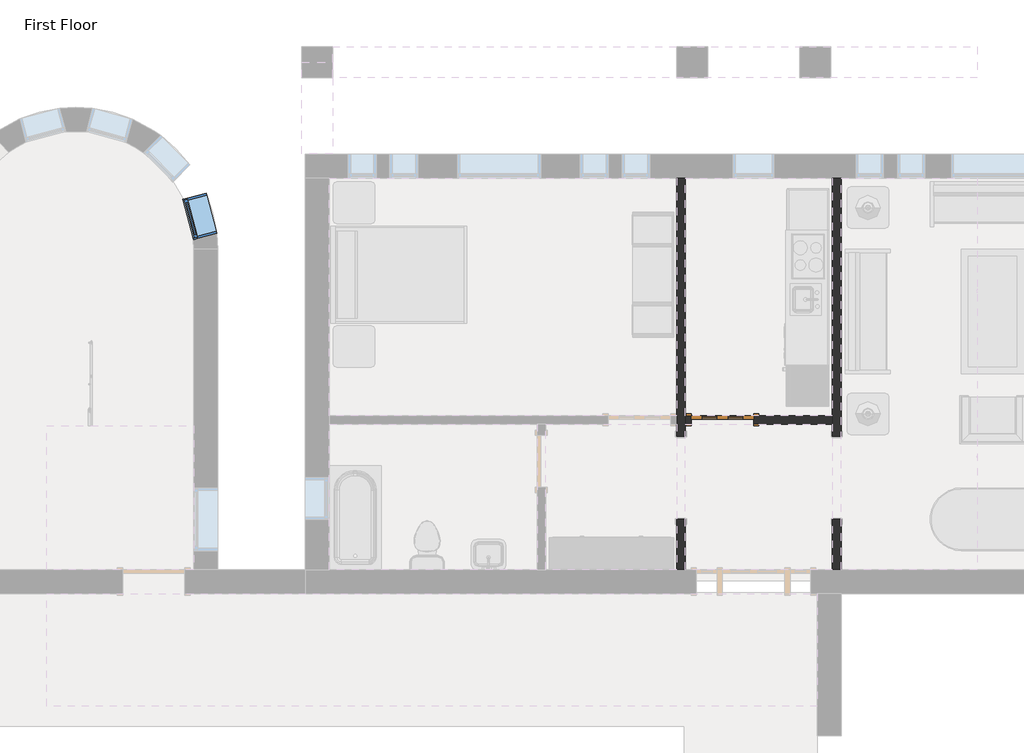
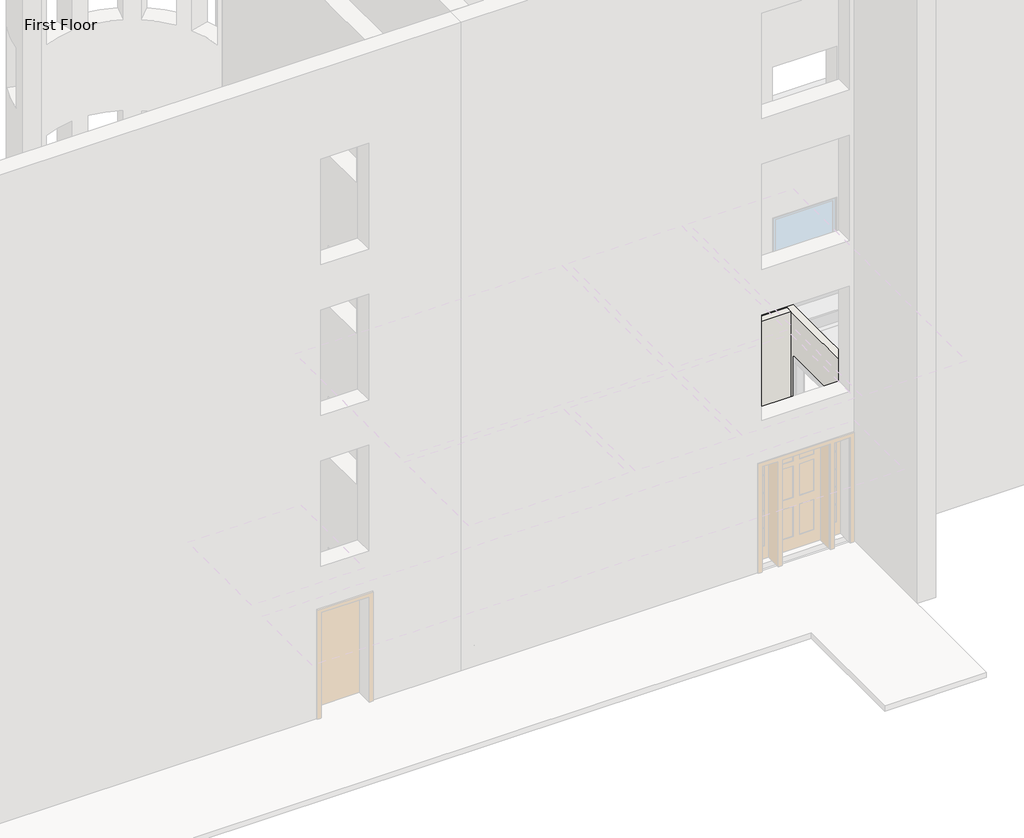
# One storey, part 16 of 24: 3 walls, 1 door, 1 window.
"""IFC4 building model written with IfcOpenShell, lengths in millimetres."""

from ifc_helpers import new_model, si_unit, frame, origin, place, context, project, spatial, polyline, outline, extrude, faceted_brep, transform, mapped, element, save
from components import door_829da954, window_60baf983

model = new_model("IFC4")

# Units and contexts
model_context = context("Model", 3, world=origin())
ifc_project = project(units=[si_unit("LENGTHUNIT", "METRE", prefix="MILLI")], contexts=[model_context])

# Site, building, storey
site = spatial("IfcSite", under=ifc_project)
building = spatial("IfcBuilding", under=site)
storey = spatial("IfcBuildingStorey", under=building, Name="First Floor", Elevation=0.0)

# Door
placement = place(None, origin())
door_shape = door_829da954(model_context)
element("IfcDoor", 1, ObjectType="Single-Decorative 2 : 36\" x 84\"", at=placement, inside=storey, context=model_context, shape_type="MappedRepresentation", body=[
    mapped(door_shape, transform((-5449.8589563, 6723.5441867, 0.0), x_axis=(-1.0, 0.0, 0.0), y_axis=(0.0, -1.0, 0.0), z_axis=(0.0, 0.0, 1.0))),
])

# Walls
element("IfcWall", 2, ObjectType="Interior - 5\" Partition (2-hr)", at=placement, inside=storey, context=model_context, shape_type="Brep", body=[
    faceted_brep([(-3836.9589563, 10270.0191867, 0.0), (-3836.9589563, 6787.0441867, 0.0), (-3836.9589563, 6660.0441867, 0.0), (-3836.9589563, 6483.8316867, 0.0), (-3836.9589563, 6483.8316867, 2133.6), (-3836.9589563, 5264.6316867, 2133.6), (-3836.9589563, 5264.6316867, 0.0), (-3836.9589563, 4526.4441867, 0.0), (-3836.9589563, 4526.4441867, 3048.0), (-3836.9589563, 6660.0441867, 3048.0), (-3836.9589563, 6787.0441867, 3048.0), (-3836.9589563, 10270.0191867, 3048.0), (-3709.9589563, 6483.8316867, 2133.6), (-3709.9589563, 6483.8316867, 0.0), (-3709.9589563, 10270.0191867, 0.0), (-3709.9589563, 10270.0191867, 3048.0), (-3709.9589563, 4526.4441867, 3048.0), (-3709.9589563, 4526.4441867, 0.0), (-3709.9589563, 5264.6316867, 0.0), (-3709.9589563, 5264.6316867, 2133.6)], [[[0, 1, 2, 3, 4, 5, 6, 7, 8, 9, 10, 11]], [[12, 13, 14, 15, 16, 17, 18, 19]], [[14, 13, 3, 2, 1, 0]], [[18, 17, 7, 6]], [[11, 10, 9, 8, 16, 15]], [[0, 11, 15, 14]], [[8, 7, 17, 16]], [[6, 5, 19, 18]], [[4, 3, 13, 12]], [[5, 4, 12, 19]]]),
])
element("IfcWall", 3, ObjectType="Interior - 5\" Partition (2-hr)", at=placement, inside=storey, context=model_context, shape_type="Brep", body=[
    faceted_brep([(-6122.9589563, 4526.4441867, 0.0), (-6122.9589563, 5264.6316867, 0.0), (-5995.9589563, 5264.6316867, 0.0), (-5995.9589563, 4526.4441867, 0.0), (-6122.9589563, 6483.8316867, 0.0), (-6122.9589563, 6660.0441867, 0.0), (-6122.9589563, 6787.0441867, 0.0), (-6122.9589563, 10270.0191867, 0.0), (-5995.9589563, 10270.0191867, 0.0), (-5995.9589563, 6787.0441867, 0.0), (-5995.9589563, 6660.0441867, 0.0), (-5995.9589563, 6483.8316867, 0.0), (-6122.9589563, 10270.0191867, 3048.0), (-6122.9589563, 6787.0441867, 3048.0), (-6122.9589563, 6660.0441867, 3048.0), (-6122.9589563, 4526.4441867, 3048.0), (-5995.9589563, 4526.4441867, 3048.0), (-5995.9589563, 6660.0441867, 3048.0), (-5995.9589563, 6787.0441867, 3048.0), (-5995.9589563, 10270.0191867, 3048.0), (-6122.9589563, 5264.6316867, 2133.6), (-6122.9589563, 6483.8316867, 2133.6), (-5995.9589563, 5264.6316867, 2133.6), (-5995.9589563, 6483.8316867, 2133.6)], [[[0, 1, 2, 3]], [[4, 5, 6, 7, 8, 9, 10, 11]], [[12, 13, 14, 15, 16, 17, 18, 19]], [[20, 1, 0, 15, 14, 13, 12, 7, 6, 5, 4, 21]], [[3, 2, 22, 23, 11, 10, 9, 8, 19, 18, 17, 16]], [[7, 12, 19, 8]], [[15, 0, 3, 16]], [[11, 23, 21, 4]], [[22, 2, 1, 20]], [[23, 22, 20, 21]]]),
])
element("IfcWall", 4, ObjectType="Interior - 5\" Partition (2-hr)", at=placement, inside=storey, context=model_context, shape_type="SweptSolid", body=[
    extrude(outline(polyline([(0.0, -5995.9589563), (0.0, -5907.0589563), (2133.6, -5907.0589563), (2133.6, -4992.6589563), (0.0, -4992.6589563), (0.0, -3836.9589563), (3048.0, -3836.9589563), (3048.0, -5995.9589563), (0.0, -5995.9589563)])), frame((0.0, 6660.0441867, 0.0), z_axis=(0.0, 1.0, 0.0), x_axis=(0.0, 0.0, 1.0)), (0.0, 0.0, 1.0), 127.0),
])

# Window
window_shape = window_60baf983(model_context)
element("IfcWindow", 5, ObjectType="Fixed : 24\" x 48\"", at=placement, inside=storey, context=model_context, shape_type="MappedRepresentation", body=[
    mapped(window_shape, transform((-13125.0309309, 9745.5617412, 0.0), x_axis=(-0.25587418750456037, 0.9667100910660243, 0.0), y_axis=(-0.9667100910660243, -0.25587418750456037, 0.0), z_axis=(0.0, 0.0, 1.0))),
])

save(model, "model.ifc")
